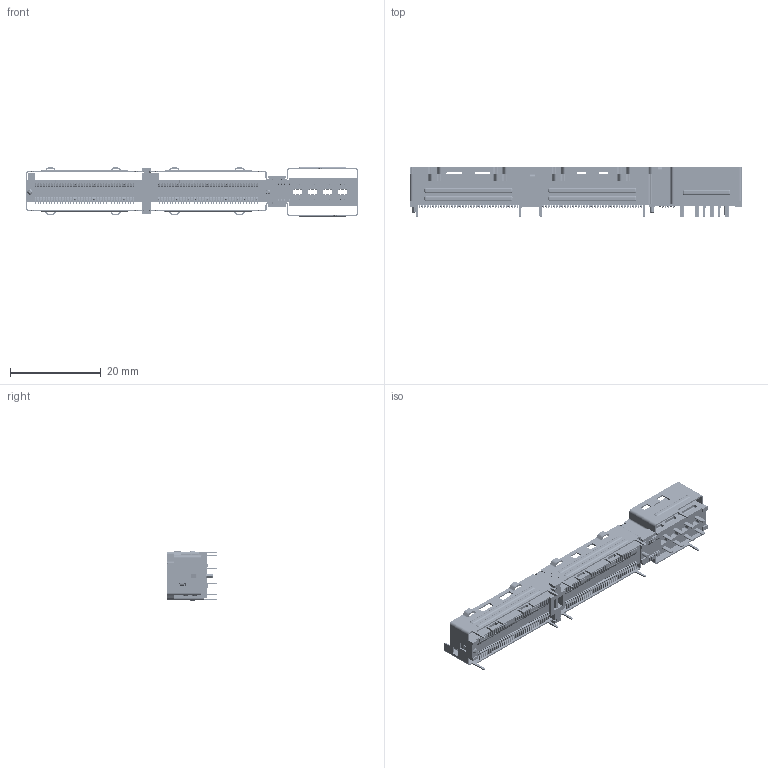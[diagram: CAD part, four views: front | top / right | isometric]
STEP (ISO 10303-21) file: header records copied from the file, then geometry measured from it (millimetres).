
FILE_DESCRIPTION((''),'2;1');
FILE_NAME('MULTI_TRAK_16X_H-POWE_SW0001','2026-04-13T20:54:38',('12824382'),(''),'CREO PARAMETRIC BY PTC INC, 2019471','CREO PARAMETRIC BY PTC INC, 2019471','');
FILE_SCHEMA(('CONFIG_CONTROL_DESIGN'));
Products named in the file (1): MULTI_TRAK_16X_H-POWE_SW0001
Bounding box: 73.2 x 11.15 x 11.06 mm (x, y, z)
Volume: 2217 mm3; surface area: 7614.1 mm2
Topology: 1 solids, 1 shells, 10694 faces, 30614 edges, 20152 vertices
Faces by surface type: plane 6641, cylinder 3812, sphere 116, bspline 64, torus 50, cone 10, extrusion 1
Entity records: 352181 total; most frequent: CARTESIAN_POINT 67449, ORIENTED_EDGE 61004, DIRECTION 58046, EDGE_CURVE 30502, VECTOR 22272, LINE 22271, VERTEX_POINT 20152, AXIS2_PLACEMENT_3D 17887
